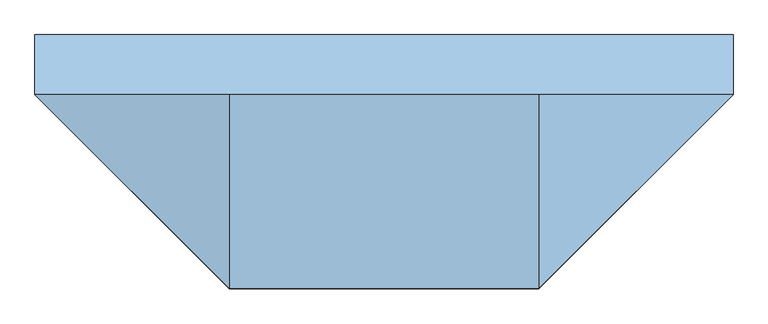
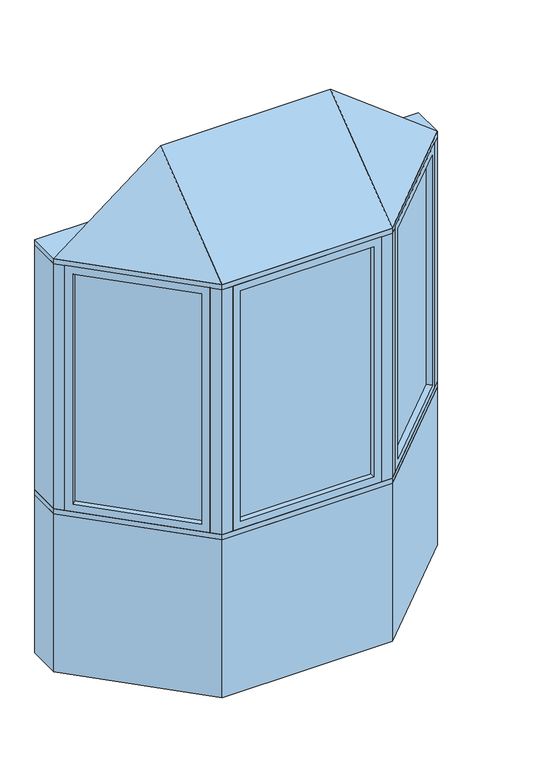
"""IFC4 building model written with IfcOpenShell, lengths in millimetres: window geometry, Pollard_Windows_Tudor Casement Bows and Bays : AML-BAY 45 AFR0512-08-600."""

from ifc_helpers import new_model, si_unit, frame, origin, origin_with_axes, place, context, project, spatial, polyline, outline, extrude, faceted_brep, source, transform, mapped, element, save


def window_ab0b5ac2(model_context):
    return source(origin(), model_context, "Body", "SolidModel", [
        extrude(outline(polyline([(824.0964271, -104.763169), (428.474814, -500.3847822), (424.8827115, -496.7926797), (820.5043247, -101.1710666), (824.0964271, -104.763169)])), frame((0.0, 0.0, 823.1628), z_axis=(0.0, 0.0, 1.0), x_axis=(1.0, 0.0, 0.0)), (0.0, 0.0, 1.0), 1153.6704),
        faceted_brep([(815.116171, -113.7434252, 835.8628), (833.0766833, -131.7039374, 835.8628), (833.0766833, -131.7039374, 1964.1332), (815.116171, -113.7434252, 1964.1332), (820.5043247, -101.1710666, 823.1628), (824.0964271, -104.763169, 823.1628), (824.0964271, -104.763169, 1976.8332), (820.5043247, -101.1710666, 1976.8332), (793.5635563, -92.1908105, 835.8628), (811.5240686, -110.1513227, 835.8628), (811.5240686, -110.1513227, 1964.1332), (793.5635563, -92.1908105, 1964.1332), (858.4369265, -106.3436941, 799.998), (818.9237996, -66.8305672, 799.998), (818.9237996, -66.8305672, 1999.998), (858.4369265, -106.3436941, 1999.998), (455.4155823, -509.3650383, 1964.1332), (437.4550701, -491.4045261, 1964.1332), (428.474814, -500.3847822, 1976.8332), (424.8827115, -496.7926797, 1976.8332), (433.8629677, -487.8124236, 1964.1332), (415.9024554, -469.8519114, 1964.1332), (390.5422121, -495.2121547, 1999.998), (430.0553391, -534.7252816, 1999.998), (455.4155823, -509.3650383, 835.8628), (437.4550701, -491.4045261, 835.8628), (428.474814, -500.3847822, 823.1628), (424.8827115, -496.7926797, 823.1628), (433.8629677, -487.8124236, 835.8628), (415.9024554, -469.8519114, 835.8628), (390.5422121, -495.2121547, 799.998), (430.0553391, -534.7252816, 799.998)], [[[0, 1, 2, 3]], [[4, 5, 6, 7]], [[8, 9, 10, 11]], [[12, 13, 14, 15]], [[3, 2, 16, 17]], [[7, 6, 18, 19]], [[11, 10, 20, 21]], [[15, 14, 22, 23]], [[17, 16, 24, 25]], [[19, 18, 26, 27]], [[21, 20, 28, 29]], [[23, 22, 30, 31]], [[25, 24, 1, 0]], [[5, 26, 18, 6], [3, 17, 25, 0]], [[27, 26, 5, 4]], [[7, 19, 27, 4], [9, 28, 20, 10]], [[29, 28, 9, 8]], [[13, 30, 22, 14], [11, 21, 29, 8]], [[31, 30, 13, 12]], [[15, 23, 31, 12], [1, 24, 16, 2]]]),
        extrude(outline(polyline([(-428.474814, -500.3847822), (-824.0964271, -104.763169), (-820.5043247, -101.1710666), (-424.8827115, -496.7926797), (-428.474814, -500.3847822)])), frame((0.0, 0.0, 823.1628), z_axis=(0.0, 0.0, 1.0), x_axis=(1.0, 0.0, 0.0)), (0.0, 0.0, 1.0), 1153.6704),
        faceted_brep([(-433.8629677, -487.8124236, 1964.1332), (-415.9024554, -469.8519114, 1964.1332), (-415.9024554, -469.8519114, 835.8628), (-433.8629677, -487.8124236, 835.8628), (-428.474814, -500.3847822, 1976.8332), (-424.8827115, -496.7926797, 1976.8332), (-424.8827115, -496.7926797, 823.1628), (-428.474814, -500.3847822, 823.1628), (-455.4155823, -509.3650383, 1964.1332), (-437.4550701, -491.4045261, 1964.1332), (-437.4550701, -491.4045261, 835.8628), (-455.4155823, -509.3650383, 835.8628), (-390.5422121, -495.2121547, 1999.998), (-430.0553391, -534.7252816, 1999.998), (-430.0553391, -534.7252816, 799.998), (-390.5422121, -495.2121547, 799.998), (-793.5635563, -92.1908105, 835.8628), (-811.5240686, -110.1513227, 835.8628), (-820.5043247, -101.1710666, 823.1628), (-824.0964271, -104.763169, 823.1628), (-815.116171, -113.7434252, 835.8628), (-833.0766833, -131.7039374, 835.8628), (-858.4369265, -106.3436941, 799.998), (-818.9237996, -66.8305672, 799.998), (-793.5635563, -92.1908105, 1964.1332), (-811.5240686, -110.1513227, 1964.1332), (-820.5043247, -101.1710666, 1976.8332), (-824.0964271, -104.763169, 1976.8332), (-815.116171, -113.7434252, 1964.1332), (-833.0766833, -131.7039374, 1964.1332), (-858.4369265, -106.3436941, 1999.998), (-818.9237996, -66.8305672, 1999.998)], [[[0, 1, 2, 3]], [[4, 5, 6, 7]], [[8, 9, 10, 11]], [[12, 13, 14, 15]], [[3, 2, 16, 17]], [[7, 6, 18, 19]], [[11, 10, 20, 21]], [[15, 14, 22, 23]], [[17, 16, 24, 25]], [[19, 18, 26, 27]], [[21, 20, 28, 29]], [[23, 22, 30, 31]], [[15, 23, 31, 12], [1, 24, 16, 2]], [[25, 24, 1, 0]], [[5, 26, 18, 6], [3, 17, 25, 0]], [[27, 26, 5, 4]], [[7, 19, 27, 4], [9, 28, 20, 10]], [[29, 28, 9, 8]], [[13, 30, 22, 14], [11, 21, 29, 8]], [[31, 30, 13, 12]]]),
        extrude(outline(polyline([(321.5352, -544.6806207), (-321.5352, -544.6806207), (-321.5352, -539.6006207), (321.5352, -539.6006207), (321.5352, -544.6806207)])), frame((0.0, 0.0, 823.1628), z_axis=(0.0, 0.0, 1.0), x_axis=(1.0, 0.0, 0.0)), (0.0, 0.0, 1.0), 1153.6704),
        faceted_brep([(308.8352, -544.6806207, 835.8628), (308.8352, -570.0806207, 835.8628), (308.8352, -570.0806207, 1964.1332), (308.8352, -544.6806207, 1964.1332), (321.5352, -539.6006207, 823.1628), (321.5352, -544.6806207, 823.1628), (321.5352, -544.6806207, 1976.8332), (321.5352, -539.6006207, 1976.8332), (308.8352, -514.2006207, 835.8628), (308.8352, -539.6006207, 835.8628), (308.8352, -539.6006207, 1964.1332), (308.8352, -514.2006207, 1964.1332), (344.7, -570.0806207, 799.998), (344.7, -514.2006207, 799.998), (344.7, -514.2006207, 1999.998), (344.7, -570.0806207, 1999.998), (-308.8352, -570.0806207, 1964.1332), (-308.8352, -544.6806207, 1964.1332), (-321.5352, -544.6806207, 1976.8332), (-321.5352, -539.6006207, 1976.8332), (-308.8352, -539.6006207, 1964.1332), (-308.8352, -514.2006207, 1964.1332), (-344.7, -514.2006207, 1999.998), (-344.7, -570.0806207, 1999.998), (-308.8352, -570.0806207, 835.8628), (-308.8352, -544.6806207, 835.8628), (-321.5352, -544.6806207, 823.1628), (-321.5352, -539.6006207, 823.1628), (-308.8352, -539.6006207, 835.8628), (-308.8352, -514.2006207, 835.8628), (-344.7, -514.2006207, 799.998), (-344.7, -570.0806207, 799.998)], [[[0, 1, 2, 3]], [[4, 5, 6, 7]], [[8, 9, 10, 11]], [[12, 13, 14, 15]], [[3, 2, 16, 17]], [[7, 6, 18, 19]], [[11, 10, 20, 21]], [[15, 14, 22, 23]], [[17, 16, 24, 25]], [[19, 18, 26, 27]], [[21, 20, 28, 29]], [[23, 22, 30, 31]], [[15, 23, 31, 12], [1, 24, 16, 2]], [[25, 24, 1, 0]], [[5, 26, 18, 6], [3, 17, 25, 0]], [[27, 26, 5, 4]], [[7, 19, 27, 4], [9, 28, 20, 10]], [[29, 28, 9, 8]], [[13, 30, 22, 14], [11, 21, 29, 8]], [[31, 30, 13, 12]]]),
        faceted_brep([(890.0, -74.7806207, 2025.398), (394.7, -570.0806207, 2025.398), (-394.7, -570.0806207, 2025.398), (-890.0, -74.7806207, 2025.398), (-394.7, -74.7806207, 2406.398), (394.7, -74.7806207, 2406.398)], [[[0, 1, 2, 3]], [[3, 2, 4]], [[2, 1, 5, 4]], [[1, 0, 5]], [[0, 3, 4, 5]]]),
        extrude(outline(polyline([(-890.0, 77.6193793), (890.0, 77.6193793), (890.0, -74.7806207), (394.7, -570.0806207), (-394.7, -570.0806207), (-890.0, -74.7806207), (-890.0, 77.6193793)])), frame((0.0, 0.0, 1999.998), z_axis=(0.0, 0.0, 1.0), x_axis=(1.0, 0.0, 0.0)), (0.0, 0.0, 1.0), 25.4),
        extrude(outline(polyline([(-890.0, -74.7806207), (-890.0, 77.6193793), (-826.8738531, 77.6193793), (-826.8738531, -74.7806207), (-858.4369265, -106.3436941), (-890.0, -74.7806207)])), frame((0.0, 0.0, 799.998), z_axis=(0.0, 0.0, 1.0), x_axis=(1.0, 0.0, 0.0)), (0.0, 0.0, 1.0), 1200.0),
        extrude(outline(polyline([(890.0, 77.6193793), (890.0, -74.7806207), (858.4369265, -106.3436941), (826.8738531, -74.7806207), (826.8738531, 77.6193793), (890.0, 77.6193793)])), frame((0.0, 0.0, 799.998), z_axis=(0.0, 0.0, 1.0), x_axis=(1.0, 0.0, 0.0)), (0.0, 0.0, 1.0), 1200.0),
        extrude(outline(polyline([(394.7, -570.0806207), (344.7, -570.0806207), (344.7, -520.0806207), (373.9893219, -520.0806207), (394.7, -499.3699425), (430.0553391, -534.7252816), (394.7, -570.0806207)])), frame((0.0, 0.0, 799.998), z_axis=(0.0, 0.0, 1.0), x_axis=(1.0, 0.0, 0.0)), (0.0, 0.0, 1.0), 1200.0),
        extrude(outline(polyline([(-394.7, -570.0806207), (-430.0553391, -534.7252816), (-394.7, -499.3699425), (-373.9893219, -520.0806207), (-344.7, -520.0806207), (-344.7, -570.0806207), (-394.7, -570.0806207)])), frame((0.0, 0.0, 799.998), z_axis=(0.0, 0.0, 1.0), x_axis=(1.0, 0.0, 0.0)), (0.0, 0.0, 1.0), 1200.0),
        extrude(outline(polyline([(-394.7, -570.0806207), (-890.0, -74.7806207), (-890.0, 77.6193793), (-826.8738531, 77.6193793), (-331.5738531, -417.6806207), (331.5738531, -417.6806207), (826.8738531, 77.6193793), (890.0, 77.6193793), (890.0, -74.7806207), (394.7, -570.0806207), (-394.7, -570.0806207)])), frame((0.0, 0.0, 774.598), z_axis=(0.0, 0.0, 1.0), x_axis=(1.0, 0.0, 0.0)), (0.0, 0.0, 1.0), 25.4),
        extrude(outline(polyline([(-890.0, -74.7806207), (-890.0, 77.6193793), (-826.8738531, 77.6193793), (-331.5738531, -417.6806207), (331.5738531, -417.6806207), (826.8738531, 77.6193793), (890.0, 77.6193793), (890.0, -74.7806207), (394.7, -570.0806207), (-394.7, -570.0806207), (-890.0, -74.7806207)])), origin_with_axes(), (0.0, 0.0, 1.0), 774.598),
    ])


if __name__ == "__main__":
    model = new_model("IFC4")
    model_context = context("Model", 3, world=origin())
    ifc_project = project(units=[si_unit("LENGTHUNIT", "METRE", prefix="MILLI")], contexts=[model_context])
    site = spatial("IfcSite", under=ifc_project)
    building = spatial("IfcBuilding", under=site)
    placement = place(None, origin())
    window_shape = window_ab0b5ac2(model_context)
    element("IfcWindow", 1, ObjectType="Pollard_Windows_Tudor Casement Bows and Bays : AML-BAY 45 AFR0512-08-600", at=placement, inside=building, context=model_context, shape_type="MappedRepresentation", body=[
        mapped(window_shape, transform((0.0, 0.0, 0.0), x_axis=(1.0, 0.0, 0.0), y_axis=(0.0, 1.0, 0.0), z_axis=(0.0, 0.0, 1.0))),
    ])
    save(model, "model.ifc")
